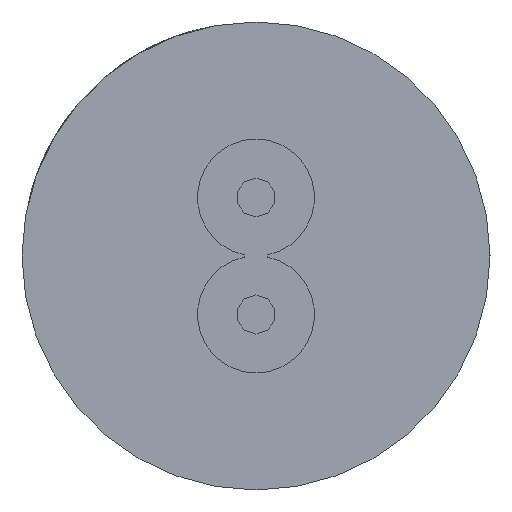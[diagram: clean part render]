
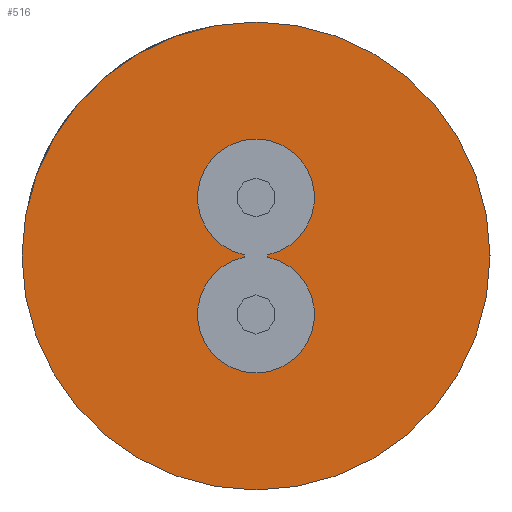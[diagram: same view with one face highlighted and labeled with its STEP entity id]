
A CAD part, left-side view. The second image highlights one B-rep face of the part: STEP entity #516.
In plain terms, the highlighted planar face has unit normal (-1, 0, 0).
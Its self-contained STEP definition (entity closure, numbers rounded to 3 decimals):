
#155 = EDGE_CURVE ( 'NONE', #1442, #905, #2034, .T. ) ;
#169 = EDGE_CURVE ( 'NONE', #919, #920, #2054, .T. ) ;
#171 = EDGE_CURVE ( 'NONE', #920, #917, #2055, .T. ) ;
#172 = EDGE_CURVE ( 'NONE', #921, #919, #2060, .T. ) ;
#173 = EDGE_CURVE ( 'NONE', #922, #921, #2058, .T. ) ;
#174 = EDGE_CURVE ( 'NONE', #917, #922, #2062, .T. ) ;
#175 = EDGE_CURVE ( 'NONE', #905, #1442, #2063, .T. ) ;
#516 = ADVANCED_FACE ( 'NONE', ( #3129, #3133 ), #5971, .T. ) ;
#905 = VERTEX_POINT ( 'NONE', #5160 ) ;
#917 = VERTEX_POINT ( 'NONE', #5172 ) ;
#919 = VERTEX_POINT ( 'NONE', #5174 ) ;
#920 = VERTEX_POINT ( 'NONE', #5175 ) ;
#921 = VERTEX_POINT ( 'NONE', #5176 ) ;
#922 = VERTEX_POINT ( 'NONE', #5177 ) ;
#1216 = AXIS2_PLACEMENT_3D ( 'NONE', #2543, #2544, #2545 ) ;
#1223 = AXIS2_PLACEMENT_3D ( 'NONE', #2578, #2579, #2580 ) ;
#1224 = AXIS2_PLACEMENT_3D ( 'NONE', #2584, #2585, #2586 ) ;
#1225 = AXIS2_PLACEMENT_3D ( 'NONE', #2587, #2588, #2589 ) ;
#1226 = AXIS2_PLACEMENT_3D ( 'NONE', #2590, #2591, #2592 ) ;
#1442 = VERTEX_POINT ( 'NONE', #5793 ) ;
#1706 = ORIENTED_EDGE ( 'NONE', *, *, #171, .F. ) ;
#1707 = ORIENTED_EDGE ( 'NONE', *, *, #169, .F. ) ;
#1708 = ORIENTED_EDGE ( 'NONE', *, *, #172, .F. ) ;
#1709 = ORIENTED_EDGE ( 'NONE', *, *, #173, .F. ) ;
#1710 = ORIENTED_EDGE ( 'NONE', *, *, #174, .F. ) ;
#1711 = ORIENTED_EDGE ( 'NONE', *, *, #155, .F. ) ;
#1712 = ORIENTED_EDGE ( 'NONE', *, *, #175, .F. ) ;
#1905 = EDGE_LOOP ( 'NONE', ( #1706, #1707, #1708, #1709, #1710 ) ) ;
#1906 = EDGE_LOOP ( 'NONE', ( #1711, #1712 ) ) ;
#2034 = CIRCLE ( 'NONE', #1216, 3. ) ;
#2054 = CIRCLE ( 'NONE', #1223, 0.75 ) ;
#2055 = LINE ( 'NONE', #2577, #2061 ) ;
#2058 = LINE ( 'NONE', #2583, #2064 ) ;
#2060 = CIRCLE ( 'NONE', #1224, 0.75 ) ;
#2061 = VECTOR ( 'NONE', #2582, 1000. ) ;
#2062 = CIRCLE ( 'NONE', #1225, 0.75 ) ;
#2063 = CIRCLE ( 'NONE', #1226, 3. ) ;
#2064 = VECTOR ( 'NONE', #2581, 1000. ) ;
#2543 = CARTESIAN_POINT ( 'NONE',  ( -25., 0., 0. ) ) ;
#2544 = DIRECTION ( 'NONE',  ( 1., 0., 0. ) ) ;
#2545 = DIRECTION ( 'NONE',  ( 0., 0., -1. ) ) ;
#2577 = CARTESIAN_POINT ( 'NONE',  ( -25., -0.15, -0.015 ) ) ;
#2578 = CARTESIAN_POINT ( 'NONE',  ( -25., 0., -0.75 ) ) ;
#2579 = DIRECTION ( 'NONE',  ( -1., 0., 0. ) ) ;
#2580 = DIRECTION ( 'NONE',  ( 0., 0., 1. ) ) ;
#2581 = DIRECTION ( 'NONE',  ( 0., 0., -1. ) ) ;
#2582 = DIRECTION ( 'NONE',  ( 0., 0., 1. ) ) ;
#2583 = CARTESIAN_POINT ( 'NONE',  ( -25., 0.15, -0.015 ) ) ;
#2584 = CARTESIAN_POINT ( 'NONE',  ( -25., 0., -0.75 ) ) ;
#2585 = DIRECTION ( 'NONE',  ( -1., 0., 0. ) ) ;
#2586 = DIRECTION ( 'NONE',  ( 0., 0., 1. ) ) ;
#2587 = CARTESIAN_POINT ( 'NONE',  ( -25., 0., 0.75 ) ) ;
#2588 = DIRECTION ( 'NONE',  ( -1., 0., 0. ) ) ;
#2589 = DIRECTION ( 'NONE',  ( 0., 0., 1. ) ) ;
#2590 = CARTESIAN_POINT ( 'NONE',  ( -25., 0., 0. ) ) ;
#2591 = DIRECTION ( 'NONE',  ( 1., 0., 0. ) ) ;
#2592 = DIRECTION ( 'NONE',  ( 0., 0., -1. ) ) ;
#3129 = FACE_BOUND ( 'NONE', #1905, .T. ) ;
#3133 = FACE_OUTER_BOUND ( 'NONE', #1906, .T. ) ;
#3539 = AXIS2_PLACEMENT_3D ( 'NONE', #5978, #5979, #5980 ) ;
#5160 = CARTESIAN_POINT ( 'NONE',  ( -25., 0., 3. ) ) ;
#5172 = CARTESIAN_POINT ( 'NONE',  ( -25., -0.15, 0.015 ) ) ;
#5174 = CARTESIAN_POINT ( 'NONE',  ( -25., 0., -1.5 ) ) ;
#5175 = CARTESIAN_POINT ( 'NONE',  ( -25., -0.15, -0.015 ) ) ;
#5176 = CARTESIAN_POINT ( 'NONE',  ( -25., 0.15, -0.015 ) ) ;
#5177 = CARTESIAN_POINT ( 'NONE',  ( -25., 0.15, 0.015 ) ) ;
#5793 = CARTESIAN_POINT ( 'NONE',  ( -25., 0., -3. ) ) ;
#5971 = PLANE ( 'NONE',  #3539 ) ;
#5978 = CARTESIAN_POINT ( 'NONE',  ( -25., 0., 0. ) ) ;
#5979 = DIRECTION ( 'NONE',  ( -1., 0., 0. ) ) ;
#5980 = DIRECTION ( 'NONE',  ( 0., 0., 1. ) ) ;
